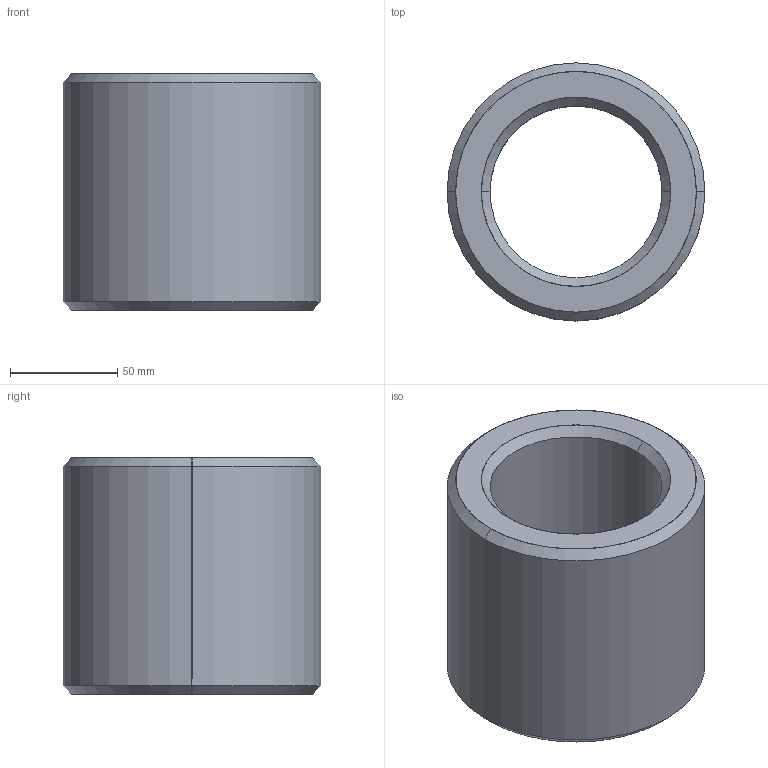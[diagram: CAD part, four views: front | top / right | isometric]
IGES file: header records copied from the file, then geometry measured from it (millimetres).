
Start section: SolidWorks IGES file using analytic representation for surfaces
Global section: file name: C:\Users\ianosborn\Desktop\L1339_v2\L1339_v2_20241024_IGES\L1339.L80-10.igs; native system: SolidWorks 2019; preprocessor: SolidWorks 2019; author: IanOsborn; date: 241024.150744; units: millimetre
Bounding box: 120 x 120 x 110 mm (x, y, z)
Surface area: 78736.9 mm2 (no closed solid volume)
Topology: 0 solids, 0 shells, 14 faces, 304 edges, 304 vertices
Faces by surface type: revolution 12, bspline 2
